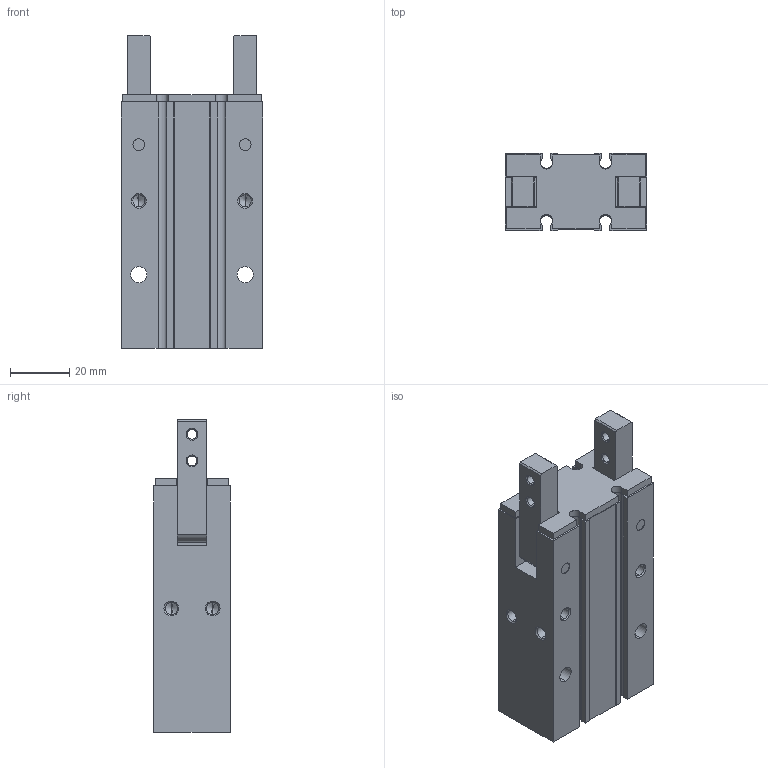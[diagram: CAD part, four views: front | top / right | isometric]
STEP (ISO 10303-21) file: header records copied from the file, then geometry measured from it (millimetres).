
FILE_DESCRIPTION (( 'STEP AP203' ), '1' );
FILE_NAME ('CHY2-20D.STEP', '2018-11-23T18:55:15', ( '' ), ( '' ), 'SwSTEP 2.0', 'SolidWorks 2018', '' );
FILE_SCHEMA (( 'CONFIG_CONTROL_DESIGN' ));
Length unit declared in the file: millimetre
Products named in the file (1): CHY2-20D
Bounding box: 48 x 26 x 106 mm (x, y, z)
Volume: 98477.8 mm3; surface area: 27573.8 mm2
Topology: 3 solids, 3 shells, 219 faces, 561 edges, 344 vertices
Faces by surface type: plane 84, cylinder 79, cone 56
Entity records: 6582 total; most frequent: DIRECTION 1175, CARTESIAN_POINT 1105, ORIENTED_EDGE 1082, EDGE_CURVE 541, AXIS2_PLACEMENT_3D 414, LINE 347, VECTOR 347, VERTEX_POINT 344
